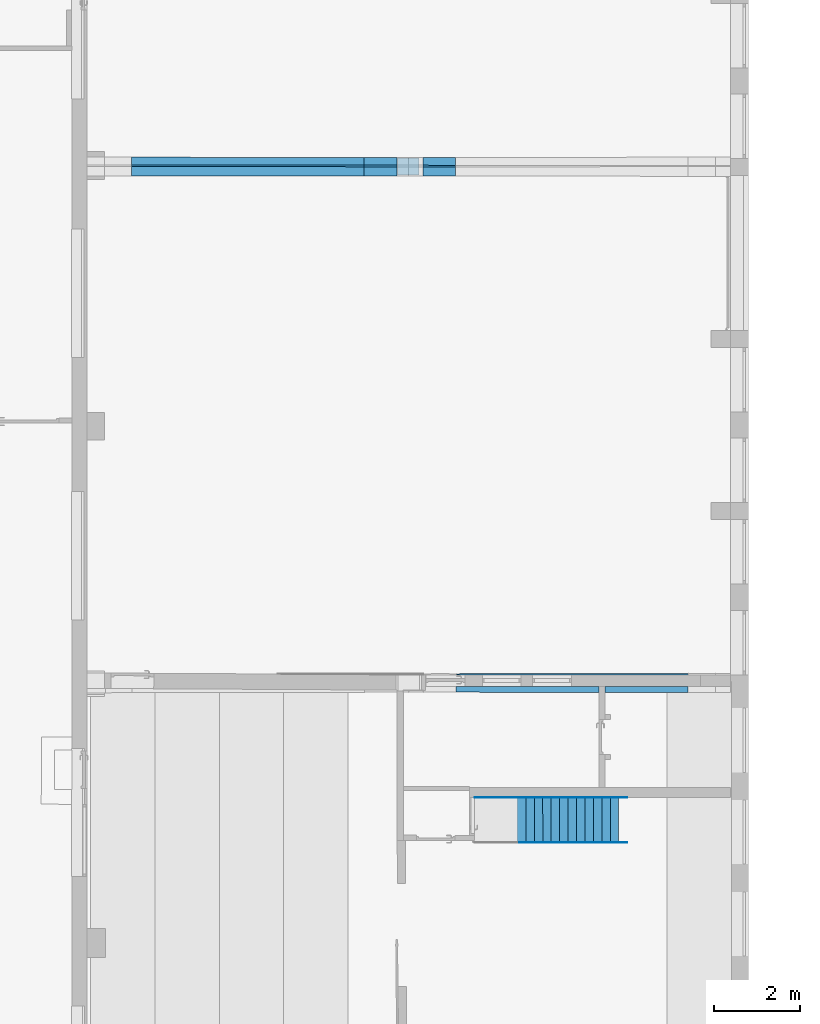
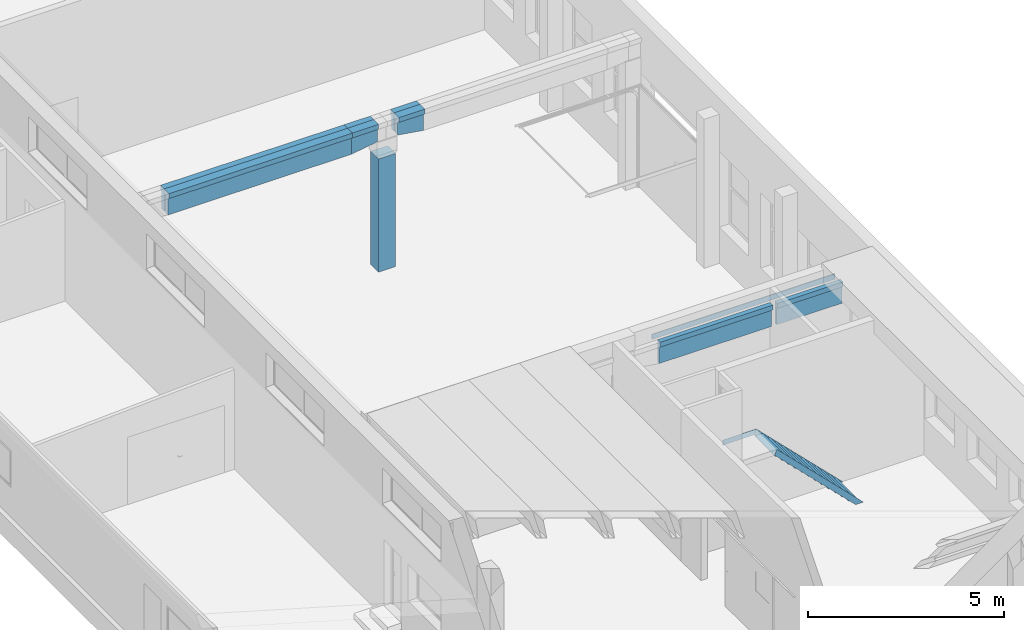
# One storey, part 205 of 301: 13 building element parts, 8 elements without a shape of their own.
"""IFC2X3 building model written with IfcOpenShell, lengths in millimetres."""

from ifc_helpers import new_model, entity, si_unit, converted_unit, derived_unit, money_unit, direction, frame, origin_with_axes, place, context, subcontext, project, spatial, faceted_brep, material, type_object, element, aggregate, save


model = new_model("IFC2X3")

# Units and contexts
model_context = context("Model", 3, precision=0.01, world=origin_with_axes(), true_north=direction((0.0, 1.0)))
body_context = subcontext(model_context, "Body", "Model", "MODEL_VIEW")
ifc_project = project(units=[si_unit("LENGTHUNIT", "METRE", prefix="MILLI"), si_unit("AREAUNIT", "SQUARE_METRE"), si_unit("VOLUMEUNIT", "CUBIC_METRE"), converted_unit("PLANEANGLEUNIT", "DEGREE", entity("IfcPlaneAngleMeasure", 0.0174532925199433), si_unit("PLANEANGLEUNIT", "RADIAN"), dimensions=[0, 0, 0, 0, 0, 0, 0]), money_unit("EUR"), converted_unit("TIMEUNIT", "Year", entity("IfcTimeMeasure", 31557600.0), si_unit("TIMEUNIT", "SECOND"), dimensions=[0, 0, 1, 0, 0, 0, 0]), si_unit("MASSUNIT", "GRAM", prefix="KILO"), si_unit("THERMODYNAMICTEMPERATUREUNIT", "DEGREE_CELSIUS"), si_unit("LUMINOUSINTENSITYUNIT", "LUMEN"), si_unit("ENERGYUNIT", "JOULE", prefix="MEGA"), derived_unit("THERMALCONDUCTANCEUNIT", [(si_unit("POWERUNIT", "WATT"), 1), (si_unit("LENGTHUNIT", "METRE"), -1), (si_unit("THERMODYNAMICTEMPERATUREUNIT", "KELVIN"), -1)]), derived_unit("SPECIFICHEATCAPACITYUNIT", [(si_unit("ENERGYUNIT", "JOULE"), 1), (si_unit("MASSUNIT", "GRAM", prefix="KILO"), -1), (si_unit("THERMODYNAMICTEMPERATUREUNIT", "KELVIN"), -1)]), derived_unit("MASSDENSITYUNIT", [(si_unit("MASSUNIT", "GRAM", prefix="KILO"), 1), (si_unit("VOLUMEUNIT", "CUBIC_METRE"), -1)])], contexts=[model_context])

# Site, building, storey
site_placement = place(None, frame((0.0, 0.0, 8650.0), z_axis=(0.0, 0.0, 1.0), x_axis=(1.0, 0.0, 0.0)))
site = spatial("IfcSite", under=ifc_project, at=site_placement, Name="43301:001:0844", CompositionType="ELEMENT")
building_placement = place(site_placement, origin_with_axes())
building = spatial("IfcBuilding", under=site, at=building_placement, Name="Kuressaare Ametikooli tuulikute mehaanikute õppekorpus", CompositionType="ELEMENT")
storey_placement = place(building_placement, origin_with_axes())
storey = spatial("IfcBuildingStorey", under=building, at=storey_placement, Name="1.korrus", CompositionType="ELEMENT", Elevation=0.0)

# Column, building element part
column_type = type_object("IfcColumnType", Name="Various Structures - 3 Segments - 600 x 400 x 4050 (3533+102+415)", PredefinedType="NOTDEFINED")
column_placement = place(storey_placement, frame((95731.50422307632, 86396.78349422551, -330.0), z_axis=(0.0, 0.0, 1.0), x_axis=(1.0, 0.0, 0.0)))
column = element("IfcColumn", 1, at=column_placement, inside=storey, type_object=column_type)
ifc_material_1 = material(Name="GENEERILINE - KONSTRUKTRIOON")
building_element_part_1_placement = place(column_placement, origin_with_axes())
building_element_part_1 = element("IfcBuildingElementPart", 2, at=building_element_part_1_placement, material=ifc_material_1, Name="GENEERILINE - KONSTRUKTRIOON", context=body_context, shape_type="Brep", body=[
    faceted_brep([(-250.0, -200.0000000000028, 3532.979557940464), (-250.0, -200.0000000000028, 0.0), (250.0, -200.0000000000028, 0.0), (250.0, -200.0000000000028, 3532.979557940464), (-250.0, 200.0000000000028, 3532.979557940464), (-250.0, 200.0000000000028, 0.0), (250.0, 200.0000000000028, 0.0), (250.0, 200.0000000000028, 3532.979557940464)], [[[0, 1, 2, 3]], [[4, 5, 1, 0]], [[2, 1, 5, 6]], [[3, 2, 6, 7]], [[4, 0, 3, 7]], [[7, 6, 5, 4]]]),
])
aggregate(column, [building_element_part_1])

# Beam, building element part
beam_type_1 = type_object("IfcBeamType", Name="Various Structures - 5 Segments - 250 x 700 x 7496 (338+766+5404+640+349)", PredefinedType="NOTDEFINED")
beam_1_placement = place(storey_placement, frame((95731.40168846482, 86476.84788949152, 4300.0), z_axis=(0.0, 0.0, 1.0), x_axis=(0.001815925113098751, -0.9999983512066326, 0.0)))
beam_1 = element("IfcBeam", 3, at=beam_1_placement, inside=storey, type_object=beam_type_1)
ifc_material_2 = material(Name="Raudbetoon")
building_element_part_2_placement = place(beam_1_placement, origin_with_axes())
building_element_part_2 = element("IfcBuildingElementPart", 4, at=building_element_part_2_placement, material=ifc_material_2, Name="Raudbetoon", context=body_context, shape_type="Brep", body=[
    faceted_brep([(-125.0047820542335, 1103.687342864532, 0.0), (54.73938169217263, 1103.687342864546, 0.0), (54.7396536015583, 1103.687342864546, -150.0000000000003), (89.87213282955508, 1103.687342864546, -158.4317561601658), (64.99999999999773, 1103.687342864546, -164.4010680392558), (64.99999999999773, 1103.687342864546, -699.9999999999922), (-64.99999999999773, 1103.687342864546, -699.9999999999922), (-64.99999999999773, 1103.687342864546, -164.4010680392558), (-125.0044501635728, 1103.687342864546, -150.0000000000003), (-125.004616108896, 1103.687342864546, -75.00000000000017), (54.15715483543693, 911.6890417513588, 0.0), (54.73781353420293, 1103.170792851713, 0.0), (-125.0049071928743, 912.2047113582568, 0.0), (-125.00515747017, 529.2394483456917, 0.0), (-125.0052826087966, 337.7568168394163, 0.0), (52.41441914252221, 337.7568168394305, 0.0), (52.99429251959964, 528.7255442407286, 0.0), (54.73808544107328, 1103.170792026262, -150.0000000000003), (54.73794948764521, 1103.170792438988, -75.00000000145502), (88.70993455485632, 337.7568168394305, -158.7108136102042), (54.15747658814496, 911.6890407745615, -150.0000000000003), (52.99459399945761, 528.7255433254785, -150.0000000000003), (52.41471051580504, 337.7568168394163, -150.0000000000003), (64.99999999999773, 337.7568168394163, -164.4011979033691), (64.99999999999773, 337.7568168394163, -579.8231697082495), (-64.99999999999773, 337.7568168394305, -579.8231697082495), (-64.99999999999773, 337.7568168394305, -164.4011979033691), (-125.0045854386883, 912.2047113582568, -150.0000000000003), (-125.004991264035, 337.7568168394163, -150.0000000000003), (-125.0048559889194, 529.2394483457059, -150.0000000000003), (-125.0048765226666, 720.7220798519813, -75.00000000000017), (-125.0051369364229, 337.7568168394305, -75.00000000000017), (52.41456523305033, 337.7568168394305, -75.20094152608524), (52.41456442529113, 337.7568168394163, -74.79905847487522), (53.57587948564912, 720.2072925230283, -75.00000000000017)], [[[0, 1, 2, 3, 4, 5, 6, 7, 8, 9]], [[10, 11, 1, 0, 12, 13, 14, 15, 16]], [[17, 2, 1, 11, 18]], [[19, 3, 2, 17, 20, 21, 22]], [[4, 3, 19, 23]], [[24, 5, 4, 23]], [[24, 25, 6, 5]], [[26, 7, 6, 25]], [[27, 8, 7, 26, 28, 29]], [[27, 9, 8]], [[12, 0, 9]], [[10, 18, 11]], [[13, 12, 30]], [[14, 13, 31]], [[22, 32, 33, 15, 14, 31, 28, 26, 25, 24, 23, 19]], [[15, 33, 16]], [[16, 34, 10]], [[20, 17, 18]], [[20, 34, 21]], [[22, 21, 32]], [[28, 31, 29]], [[29, 30, 27]], [[12, 9, 27, 30]], [[18, 10, 34, 20]], [[13, 30, 29, 31]], [[34, 16, 33, 32, 21]]]),
])
aggregate(beam_1, [building_element_part_2])

# Beam, building element parts
beam_type_2 = type_object("IfcBeamType", Name="Various Structures - 5 Segments - 250 x 700 x 7473 (262+767+5416+621+407)", PredefinedType="NOTDEFINED")
beam_2_placement = place(storey_placement, frame((95731.40168846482, 86476.84788949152, 4300.0), z_axis=(0.0, 0.0, 1.0), x_axis=(0.001819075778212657, 0.9999983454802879, 0.0)))
beam_2 = element("IfcBeam", 5, at=beam_2_placement, inside=storey, type_object=beam_type_2)
building_element_part_3_placement = place(beam_2_placement, origin_with_axes())
building_element_part_3 = element("IfcBuildingElementPart", 6, at=building_element_part_3_placement, material=ifc_material_2, Name="Raudbetoon", context=body_context, shape_type="Brep", body=[
    faceted_brep([(-65.00000000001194, 261.7777961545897, -579.8231697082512), (-65.00000000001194, 262.906567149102, -580.0000000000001), (64.99999999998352, 262.9065671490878, -580.0000000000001), (64.99999999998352, 261.7777961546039, -579.8231697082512), (-64.99999999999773, 299.7797214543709, -585.776451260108), (-64.99999999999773, 299.7797214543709, -580.0000000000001), (-65.00000000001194, 261.7777961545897, -164.4011979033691), (-65.00000000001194, 1028.909484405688, -164.4010680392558), (-65.00000000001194, 1028.909484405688, -699.9999999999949), (64.99999999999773, 300.0162016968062, -580.0000000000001), (64.99999999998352, 300.0162016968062, -585.8134976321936), (64.99999999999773, 1028.909484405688, -699.9999999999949), (64.99999999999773, 1028.909484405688, -164.4010680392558), (64.99999999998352, 261.7777961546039, -164.4011979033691), (125.0051369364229, 261.7777961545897, -75.00000000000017), (125.0052826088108, 261.7777961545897, 0.0), (-51.86425243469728, 261.7777961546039, 0.0), (-51.86452434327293, 261.7777961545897, -150.0000000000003), (-88.43478805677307, 261.7777961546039, -158.7768487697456), (125.004991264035, 261.7777961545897, -150.0000000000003), (-89.13266949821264, 1028.909484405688, -158.6092273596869), (-53.26082943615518, 1028.909484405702, -150.0000000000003), (-53.26066390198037, 1028.909484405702, -75.18593625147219), (-53.26066310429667, 1028.909484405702, -74.81406374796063), (-53.26049757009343, 1028.909484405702, 0.0), (125.0047820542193, 1028.909484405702, 0.0), (125.004616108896, 1028.909484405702, -75.00000000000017), (125.0044501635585, 1028.909484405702, -150.0000000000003), (125.0045854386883, 837.1265623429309, -150.0000000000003), (125.0048559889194, 453.5607182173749, -150.0000000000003), (125.0051574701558, 453.5607182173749, 0.0), (-52.9123699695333, 837.6023380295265, 0.0), (-52.21438435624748, 454.0371289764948, 0.0), (-51.86539154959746, 262.2545244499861, 0.0), (125.0049071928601, 837.1265623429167, 0.0), (-51.86553722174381, 262.2545241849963, -75.00000000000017), (-51.86568289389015, 262.2545239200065, -150.0000000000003), (-52.21468583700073, 454.0371284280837, -150.0000000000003), (-52.91269172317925, 837.6023374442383, -150.0000000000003), (-52.56353297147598, 645.8197332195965, -75.00000000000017), (125.0048765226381, 645.3436402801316, -75.00000000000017)], [[[0, 1, 2, 3]], [[4, 5, 1, 0, 6, 7, 8]], [[5, 9, 2, 1]], [[2, 9, 10, 11, 12, 13, 3]], [[14, 15, 16, 17, 18, 6, 0, 3, 13, 19]], [[4, 10, 9, 5]], [[6, 18, 20, 7]], [[21, 22, 23, 24, 25, 26, 27, 12, 11, 8, 7, 20]], [[11, 10, 4, 8]], [[19, 13, 12, 27, 28, 29]], [[30, 15, 14]], [[25, 24, 31, 32, 33, 16, 15, 30, 34]], [[16, 33, 35, 36, 17]], [[18, 17, 36, 37, 38, 21, 20]], [[14, 19, 29]], [[21, 38, 22]], [[39, 31, 23, 22, 38]], [[24, 23, 31]], [[25, 34, 26]], [[26, 28, 27]], [[40, 29, 28]], [[14, 29, 40, 30]], [[31, 39, 32]], [[33, 32, 35]], [[34, 30, 40]], [[35, 37, 36]], [[39, 38, 37]], [[40, 28, 26, 34]], [[39, 37, 35, 32]]]),
])
building_element_part_4_placement = place(beam_2_placement, origin_with_axes())
building_element_part_4 = element("IfcBuildingElementPart", 7, at=building_element_part_4_placement, material=ifc_material_2, Name="Raudbetoon", context=body_context, shape_type="Brep", body=[
    faceted_brep([(-63.11170246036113, 6444.825006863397, 0.0), (-53.26136277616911, 1029.38494255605, 0.0), (-53.26049757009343, 1028.909484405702, 0.0), (125.0055545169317, 1028.909484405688, 0.0), (125.0055545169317, 6444.825006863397, 0.0), (-53.26169466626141, 1029.384941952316, -150.0000000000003), (-53.26152872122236, 1029.384942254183, -75.00000000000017), (-63.111974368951, 6444.825006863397, -150.0000000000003), (-53.26066310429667, 1028.909484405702, -74.81406374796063), (-53.26066390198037, 1028.909484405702, -75.18593625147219), (-53.26082943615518, 1028.909484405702, -150.0000000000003), (-89.13308572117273, 1028.909484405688, -158.609327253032), (-64.99999999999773, 1028.909484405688, -164.4012678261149), (-64.99999999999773, 1028.909484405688, -700.0000000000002), (64.99999999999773, 1028.909484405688, -700.0000000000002), (64.99999999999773, 1028.909484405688, -164.4012678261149), (125.0052826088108, 1028.909484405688, -150.0000000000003), (125.0052826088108, 6444.825006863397, -150.0000000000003), (-65.00000000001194, 6444.825006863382, -164.4012678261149), (-94.05865408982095, 6444.825006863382, -157.4271908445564), (65.00000000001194, 6444.825006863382, -164.4012678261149), (65.00000000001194, 6444.825006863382, -700.0000000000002), (-65.00000000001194, 6444.825006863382, -700.0000000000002)], [[[0, 1, 2, 3, 4]], [[5, 6, 1, 0, 7]], [[6, 8, 2, 1]], [[9, 10, 11, 12, 13, 14, 15, 16, 3, 2, 8]], [[4, 3, 16, 17]], [[18, 19, 7, 0, 4, 17, 20, 21, 22]], [[5, 10, 9, 6]], [[19, 11, 10, 5, 7]], [[6, 9, 8]], [[12, 11, 19, 18]], [[22, 13, 12, 18]], [[21, 14, 13, 22]], [[20, 15, 14, 21]], [[17, 16, 15, 20]]]),
])
aggregate(beam_2, [building_element_part_3, building_element_part_4])

# Beam, building element part
beam_type_3 = type_object("IfcBeamType", Name="Various Structures - 5 Segments - 250 x 700 x 7497 (338+766+5404+640+350)", PredefinedType="NOTDEFINED")
beam_3_placement = place(storey_placement, frame((95730.8310469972, 86300.45436199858, 4300.0), z_axis=(0.0, 0.0, 1.0), x_axis=(-0.001219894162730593, -0.9999992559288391, 0.0)))
beam_3 = element("IfcBeam", 8, at=beam_3_placement, inside=storey, type_object=beam_type_3)
building_element_part_5_placement = place(beam_3_placement, origin_with_axes())
building_element_part_5 = element("IfcBuildingElementPart", 9, at=building_element_part_5_placement, material=ifc_material_2, Name="Raudbetoon", context=body_context, shape_type="Brep", body=[
    faceted_brep([(65.00000000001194, 1103.687342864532, -164.4010680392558), (64.99999999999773, 337.7568168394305, -164.4011979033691), (64.99999999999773, 337.7568168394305, -579.8231697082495), (65.00000000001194, 1103.687342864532, -699.99999999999), (125.0044501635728, 1103.687342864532, -150.0000000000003), (125.0045854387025, 912.2047113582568, -150.0000000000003), (125.0048559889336, 529.2394483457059, -150.0000000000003), (125.0049912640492, 337.7568168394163, -150.0000000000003), (-64.99999999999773, 337.7568168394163, -579.8231697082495), (125.0051369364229, 337.7568168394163, -75.00000000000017), (125.0052826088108, 337.7568168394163, 0.0), (-125.0052826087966, 337.7568168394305, 0.0), (-125.0051369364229, 337.7568168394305, -75.00000000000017), (-125.004991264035, 337.7568168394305, -150.0000000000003), (-64.99999999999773, 337.7568168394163, -164.4011979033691), (-64.99999999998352, 1103.687342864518, -699.99999999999), (-64.99999999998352, 1103.687342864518, -164.4010680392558), (-125.0044501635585, 1103.687342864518, -150.0000000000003), (-125.004616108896, 1103.687342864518, -75.00000000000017), (-125.0047820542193, 1103.687342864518, 0.0), (125.0047820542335, 1103.687342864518, 0.0), (125.0046161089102, 1103.687342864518, -75.00000000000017), (125.0048765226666, 720.7220798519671, -75.00000000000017), (125.00515747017, 529.2394483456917, 0.0), (-125.0049071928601, 912.2047113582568, 0.0), (-125.00515747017, 529.2394483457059, 0.0), (125.0049071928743, 912.2047113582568, 0.0), (-125.0048559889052, 529.2394483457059, -150.0000000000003), (-125.0045854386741, 912.2047113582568, -150.0000000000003), (-125.0048765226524, 720.7220798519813, -75.00000000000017)], [[[0, 1, 2, 3]], [[4, 5, 6, 7, 1, 0]], [[8, 2, 1, 7, 9, 10, 11, 12, 13, 14]], [[15, 3, 2, 8]], [[0, 3, 15, 16, 17, 18, 19, 20, 21, 4]], [[21, 5, 4]], [[22, 6, 5]], [[9, 7, 6]], [[23, 10, 9]], [[19, 24, 25, 11, 10, 23, 26, 20]], [[12, 11, 25]], [[27, 13, 12]], [[16, 14, 13, 27, 28, 17]], [[15, 8, 14, 16]], [[17, 28, 18]], [[18, 24, 19]], [[20, 26, 21]], [[26, 22, 5, 21]], [[23, 9, 6, 22]], [[29, 25, 24]], [[26, 23, 22]], [[27, 12, 25, 29]], [[28, 27, 29]], [[28, 29, 24, 18]]]),
])
aggregate(beam_3, [building_element_part_5])

# Beam, building element parts
beam_type_4 = type_object("IfcBeamType", Name="Various Structures - 5 Segments - 250 x 700 x 7472 (262+767+5416+621+406)", PredefinedType="NOTDEFINED")
beam_4_placement = place(storey_placement, frame((95730.8310469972, 86300.45436199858, 4300.0), z_axis=(0.0, 0.0, 1.0), x_axis=(0.0, 1.0, 0.0)))
beam_4 = element("IfcBeam", 10, at=beam_4_placement, inside=storey, type_object=beam_type_4)
building_element_part_6_placement = place(beam_4_placement, origin_with_axes())
building_element_part_6 = element("IfcBuildingElementPart", 11, at=building_element_part_6_placement, material=ifc_material_2, Name="Raudbetoon", context=body_context, shape_type="Brep", body=[
    faceted_brep([(-64.99999999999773, 261.7777961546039, -579.8231697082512), (-64.99999999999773, 262.906567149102, -580.0000000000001), (64.99999999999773, 262.906567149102, -580.0000000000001), (64.99999999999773, 261.7777961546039, -579.8231697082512), (-64.99999999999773, 299.326823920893, -585.7055015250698), (-64.99999999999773, 299.326823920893, -580.0000000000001), (-64.99999999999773, 261.7777961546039, -164.4011979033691), (-64.99999999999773, 1028.909484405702, -164.4010680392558), (-64.99999999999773, 1028.909484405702, -699.9999999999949), (64.99999999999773, 299.326823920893, -580.0000000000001), (64.99999999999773, 299.326823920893, -585.7055015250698), (64.99999999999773, 1028.909484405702, -699.9999999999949), (64.99999999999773, 1028.909484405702, -164.4010680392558), (64.99999999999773, 261.7777961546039, -164.4011979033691), (125.004991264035, 261.7777961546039, -150.0000000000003), (125.0051369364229, 261.7777961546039, -75.00000000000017), (125.0052826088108, 261.7777961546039, 0.0), (-125.0052826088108, 261.7777961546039, 0.0), (-125.0051369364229, 261.7777961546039, -75.00000000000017), (-125.004991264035, 261.7777961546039, -150.0000000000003), (-125.0044501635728, 1028.909484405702, -150.0000000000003), (-125.0048559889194, 453.5607182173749, -150.0000000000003), (-125.0045854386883, 837.1265623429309, -150.0000000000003), (125.0044501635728, 1028.909484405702, -150.0000000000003), (-125.004616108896, 1028.909484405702, -75.00000000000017), (-125.0047820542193, 1028.909484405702, 0.0), (125.0047820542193, 1028.909484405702, 0.0), (125.004616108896, 1028.909484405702, -75.00000000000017), (125.0045854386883, 837.1265623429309, -150.0000000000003), (125.0048559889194, 453.5607182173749, -150.0000000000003), (125.00515747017, 453.5607182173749, 0.0), (-125.0049071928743, 837.1265623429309, 0.0), (-125.00515747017, 453.5607182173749, 0.0), (125.0049071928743, 837.1265623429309, 0.0), (-125.0048765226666, 645.34364028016, -75.00000000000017), (125.0048765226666, 645.34364028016, -75.00000000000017)], [[[0, 1, 2, 3]], [[4, 5, 1, 0, 6, 7, 8]], [[5, 9, 2, 1]], [[2, 9, 10, 11, 12, 13, 3]], [[6, 0, 3, 13, 14, 15, 16, 17, 18, 19]], [[4, 10, 9, 5]], [[20, 7, 6, 19, 21, 22]], [[23, 12, 11, 8, 7, 20, 24, 25, 26, 27]], [[11, 10, 4, 8]], [[12, 23, 28, 29, 14, 13]], [[29, 15, 14]], [[15, 30, 16]], [[26, 25, 31, 32, 17, 16, 30, 33]], [[32, 18, 17]], [[18, 21, 19]], [[34, 22, 21]], [[24, 20, 22]], [[25, 24, 31]], [[27, 26, 33]], [[23, 27, 28]], [[28, 35, 29]], [[35, 30, 15, 29]], [[31, 34, 32]], [[35, 33, 30]], [[34, 21, 18, 32]], [[24, 22, 34, 31]], [[27, 33, 35, 28]]]),
])
building_element_part_7_placement = place(beam_4_placement, origin_with_axes())
building_element_part_7 = element("IfcBuildingElementPart", 12, at=building_element_part_7_placement, material=ifc_material_2, Name="Raudbetoon", context=body_context, shape_type="Brep", body=[
    faceted_brep([(64.99999999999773, 1028.909484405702, -700.0000000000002), (64.99999999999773, 6444.812621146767, -700.0000000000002), (64.99999999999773, 6444.812621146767, -164.4012678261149), (64.99999999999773, 1028.909484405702, -164.4012678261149), (-64.99999999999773, 1028.909484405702, -700.0000000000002), (-64.99999999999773, 6444.812621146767, -700.0000000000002), (-64.99999999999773, 6444.812621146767, -164.4012678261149), (-125.0052826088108, 6444.812621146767, -150.0000000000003), (-125.0055545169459, 6444.812621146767, 0.0), (125.0055545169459, 6444.812621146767, 0.0), (125.0052826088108, 6444.812621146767, -150.0000000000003), (125.0052826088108, 1028.909484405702, -150.0000000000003), (125.0055545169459, 1028.909484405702, 0.0), (-125.0055545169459, 1028.909484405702, 0.0), (-125.0052826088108, 1028.909484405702, -150.0000000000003), (-64.99999999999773, 1028.909484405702, -164.4012678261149)], [[[0, 1, 2, 3]], [[4, 5, 1, 0]], [[2, 1, 5, 6, 7, 8, 9, 10]], [[3, 2, 10, 11]], [[4, 0, 3, 11, 12, 13, 14, 15]], [[15, 6, 5, 4]], [[14, 7, 6, 15]], [[13, 8, 7, 14]], [[12, 9, 8, 13]], [[11, 10, 9, 12]]]),
])
aggregate(beam_4, [building_element_part_6, building_element_part_7])

# Beam, building element part
beam_type_5 = type_object("IfcBeamType", Name="Various Structures - 5 Segments - 250 x 700 x 7488 (338+766+5404+640+341)", PredefinedType="NOTDEFINED")
beam_5_placement = place(storey_placement, frame((95739.59932354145, 74462.89050016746, 4300.0), z_axis=(0.0, 0.0, 1.0), x_axis=(0.001815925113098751, -0.9999983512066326, 0.0)))
beam_5 = element("IfcBeam", 13, at=beam_5_placement, inside=storey, type_object=beam_type_5)
building_element_part_8_placement = place(beam_5_placement, origin_with_axes())
building_element_part_8 = element("IfcBuildingElementPart", 14, at=building_element_part_8_placement, material=ifc_material_2, Name="Raudbetoon", context=body_context, shape_type="Brep", body=[
    faceted_brep([(-125.0055545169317, 1103.687342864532, 0.0), (-100.2980713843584, 1103.687342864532, 0.0), (-90.48497048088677, 6507.591200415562, 0.0), (-125.0055545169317, 6507.591200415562, 0.0), (-125.0052826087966, 1103.687342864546, -150.0000000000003), (-100.2980713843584, 1103.687342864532, -155.9297306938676), (-90.48497048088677, 6507.591200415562, -158.2848749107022), (-125.0052826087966, 6507.591200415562, -150.0000000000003)], [[[0, 1, 2, 3]], [[4, 5, 1, 0]], [[5, 6, 2, 1]], [[3, 2, 6, 7]], [[3, 7, 4, 0]], [[7, 6, 5, 4]]]),
])
aggregate(beam_5, [building_element_part_8])

beam_type_6 = type_object("IfcBeamType", Name="Various Structures - 5 Segments - 250 x 700 x 7349 (338+766+5264+640+341)", PredefinedType="NOTDEFINED")
beam_6_placement = place(storey_placement, frame((95739.02868207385, 74286.49697267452, 4300.0), z_axis=(0.0, 0.0, 1.0), x_axis=(-0.001219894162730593, -0.9999992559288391, 0.0)))
beam_6 = element("IfcBeam", 15, at=beam_6_placement, inside=storey, type_object=beam_type_6)
building_element_part_9_placement = place(beam_6_placement, origin_with_axes())
building_element_part_9 = element("IfcBuildingElementPart", 16, at=building_element_part_9_placement, material=ifc_material_2, Name="Raudbetoon", context=body_context, shape_type="Brep", body=[
    faceted_brep([(64.99999999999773, 4432.738260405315, -700.0000000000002), (-14.10301137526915, 4432.641763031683, -700.0000000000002), (-14.10301137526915, 4432.641763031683, 0.0), (125.0055545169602, 4432.81146088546, 0.0), (125.0052826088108, 4432.811460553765, -150.0000000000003), (64.99999999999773, 4432.738260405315, -164.4012678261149), (64.99999999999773, 1103.687342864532, -700.0000000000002), (-10.04203628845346, 1103.687342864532, -700.0000000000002), (-10.04203628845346, 1103.687342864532, 0.0), (125.0055545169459, 1103.687342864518, 0.0), (125.0052826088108, 1103.687342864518, -150.0000000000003), (64.99999999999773, 1103.687342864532, -164.4012678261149)], [[[0, 1, 2, 3, 4, 5]], [[6, 7, 1, 0]], [[7, 8, 2, 1]], [[3, 2, 8, 9]], [[10, 4, 3, 9]], [[11, 5, 4, 10]], [[6, 0, 5, 11]], [[9, 8, 7, 6, 11, 10]]]),
    faceted_brep([(64.99999999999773, 6507.542656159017, -700.0000000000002), (-16.63417274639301, 6507.542656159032, -700.0000000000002), (-16.63417274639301, 6507.542656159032, 0.0), (125.0055545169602, 6507.542656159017, 0.0), (125.005282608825, 6507.542656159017, -150.0000000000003), (64.99999999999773, 6507.542656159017, -164.4012678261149), (65.00000000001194, 4572.738364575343, -700.0000000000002), (-14.27379655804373, 4572.641658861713, -700.0000000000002), (-14.27379655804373, 4572.641658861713, 0.0), (125.0055545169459, 4572.811565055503, 0.0), (125.005282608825, 4572.811564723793, -150.0000000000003), (65.00000000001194, 4572.738364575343, -164.4012678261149)], [[[0, 1, 2, 3, 4, 5]], [[6, 7, 1, 0]], [[7, 8, 2, 1]], [[3, 2, 8, 9]], [[3, 9, 10, 4]], [[4, 10, 11, 5]], [[5, 11, 6, 0]], [[9, 8, 7, 6, 11, 10]]]),
])
aggregate(beam_6, [building_element_part_9])

# Stair, building element parts
stair_placement = place(storey_placement, frame((101247.1208628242, 71704.28857160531, 44.94862960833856), z_axis=(0.0, 0.0, 1.0), x_axis=(0.0, -1.0, 0.0)))
stair = element("IfcStair", 17, at=stair_placement, inside=storey, ShapeType="NOTDEFINED")
building_element_part_10_placement = place(stair_placement, origin_with_axes())
building_element_part_10 = element("IfcBuildingElementPart", 18, at=building_element_part_10_placement, material=ifc_material_1, Name="GENEERILINE - KONSTRUKTRIOON", context=body_context, shape_type="Brep", body=[
    faceted_brep([(1050.042088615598, -3042.37708893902, 2380.000000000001), (1040.042088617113, -3042.377262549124, 2380.000000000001), (1040.000527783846, -648.4595035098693, 0.0), (1050.000527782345, -648.459329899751, 0.0), (1040.040942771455, -2976.376173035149, 2540.0), (1050.04094276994, -2976.375999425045, 2540.0), (1039.996587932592, -421.5227663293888, 0.0), (1049.996587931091, -421.5225927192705, 0.0)], [[[0, 1, 2, 3]], [[4, 1, 0, 5]], [[1, 4, 6, 2]], [[7, 3, 2, 6]], [[5, 0, 3, 7]], [[4, 5, 7, 6]]]),
])
building_element_part_11_placement = place(stair_placement, origin_with_axes())
building_element_part_11 = element("IfcBuildingElementPart", 19, at=building_element_part_11_placement, material=ifc_material_1, Name="GENEERILINE - KONSTRUKTRIOON", context=body_context, shape_type="Brep", body=[
    faceted_brep([(0.04208877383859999, -3042.395318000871, 2380.0), (-9.957911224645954, -3042.395491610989, 2380.0), (-9.999472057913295, -648.4777325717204, 0.0), (0.0005279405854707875, -648.4775589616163, 0.0), (-9.959057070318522, -2976.394402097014, 2540.0), (0.04094292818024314, -2976.394228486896, 2540.0), (-10.00341190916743, -421.5409953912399, 0.0), (-0.003411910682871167, -421.5408217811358, 0.0)], [[[0, 1, 2, 3]], [[4, 1, 0, 5]], [[1, 4, 6, 2]], [[7, 3, 2, 6]], [[5, 0, 3, 7]], [[4, 5, 7, 6]]]),
])
building_element_part_12_placement = place(stair_placement, origin_with_axes())
building_element_part_12 = element("IfcBuildingElementPart", 20, at=building_element_part_12_placement, material=ifc_material_1, Name="GENEERILINE - KONSTRUKTRIOON", context=body_context, shape_type="Brep", body=[
    faceted_brep([(-9.959057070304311, -2976.394402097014, 2540.0), (-9.957911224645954, -3042.395491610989, 2380.0), (-9.95596668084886, -3154.401858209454, 2380.0), (-9.95596668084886, -3154.401858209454, 2540.0), (0.04208877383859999, -3042.395318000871, 2380.0), (0.04094292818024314, -2976.39422848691, 2540.0), (0.04403321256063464, -3154.395632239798, 2380.0), (1.043483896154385, -3968.390993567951, 2380.0), (-8.956508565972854, -3968.403271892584, 2380.0), (-8.956508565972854, -3968.403271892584, 2540.0), (1.043483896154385, -3968.390993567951, 2540.0), (0.04403321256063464, -3154.395632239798, 2540.0)], [[[0, 1, 2, 3]], [[4, 1, 0, 5]], [[1, 4, 6, 7, 8, 2]], [[2, 8, 9, 3]], [[5, 0, 3, 9, 10, 11]], [[4, 5, 11, 6]], [[11, 10, 7, 6]], [[8, 7, 10, 9]]]),
])
building_element_part_13_placement = place(stair_placement, origin_with_axes())
building_element_part_13 = element("IfcBuildingElementPart", 21, at=building_element_part_13_placement, material=ifc_material_1, Name="GENEERILINE - KONSTRUKTRIOON", context=body_context, shape_type="Brep", body=[
    faceted_brep([(1039.999999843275, -618.0499514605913, 180.3846153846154), (0.0, -618.0680069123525, 180.3846153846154), (0.0, -618.0680069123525, 195.3846153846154), (1039.999999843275, -618.0499514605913, 195.3846153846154), (1040.004192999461, -859.5771365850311, 180.3846153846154), (0.004193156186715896, -859.5951920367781, 180.3846153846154), (0.004193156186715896, -859.5951920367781, 195.3846153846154), (1040.004192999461, -859.5771365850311, 195.3846153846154)], [[[0, 1, 2, 3]], [[0, 4, 5, 1]], [[1, 5, 6, 2]], [[3, 2, 6, 7]], [[4, 0, 3, 7]], [[5, 4, 7, 6]]]),
    faceted_brep([(1040.003411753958, -814.577136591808, 375.7692307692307), (0.003411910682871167, -814.595192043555, 375.7692307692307), (0.003411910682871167, -814.595192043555, 390.7692307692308), (1040.003411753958, -814.577136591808, 390.7692307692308), (1040.007604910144, -1056.104321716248, 375.7692307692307), (0.007605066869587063, -1056.122377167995, 375.7692307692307), (0.007605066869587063, -1056.122377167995, 390.7692307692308), (1040.007604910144, -1056.104321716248, 390.7692307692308)], [[[0, 1, 2, 3]], [[0, 4, 5, 1]], [[1, 5, 6, 2]], [[3, 2, 6, 7]], [[4, 0, 3, 7]], [[5, 4, 7, 6]]]),
    faceted_brep([(1040.00682366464, -1011.104321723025, 571.1538461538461), (0.006823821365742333, -1011.122377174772, 571.1538461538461), (0.006823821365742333, -1011.122377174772, 586.1538461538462), (1040.00682366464, -1011.104321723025, 586.1538461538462), (1040.011016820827, -1252.63150684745, 571.1538461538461), (0.01101697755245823, -1252.649562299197, 571.1538461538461), (0.01101697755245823, -1252.649562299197, 586.1538461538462), (1040.011016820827, -1252.63150684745, 586.1538461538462)], [[[0, 1, 2, 3]], [[0, 4, 5, 1]], [[1, 5, 6, 2]], [[3, 2, 6, 7]], [[4, 0, 3, 7]], [[5, 4, 7, 6]]]),
    faceted_brep([(1040.010235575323, -1207.631506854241, 766.5384615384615), (0.0102357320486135, -1207.649562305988, 766.5384615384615), (0.0102357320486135, -1207.649562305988, 781.5384615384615), (1040.010235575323, -1207.631506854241, 781.5384615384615), (1040.01442873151, -1449.158691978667, 766.5384615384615), (0.0144288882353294, -1449.176747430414, 766.5384615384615), (0.0144288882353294, -1449.176747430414, 781.5384615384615), (1040.01442873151, -1449.158691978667, 781.5384615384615)], [[[0, 1, 2, 3]], [[0, 4, 5, 1]], [[1, 5, 6, 2]], [[3, 2, 6, 7]], [[4, 0, 3, 7]], [[5, 4, 7, 6]]]),
    faceted_brep([(1040.013647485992, -1404.158691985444, 961.9230769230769), (0.01364764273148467, -1404.176747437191, 961.9230769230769), (0.01364764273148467, -1404.176747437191, 976.923076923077), (1040.013647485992, -1404.158691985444, 976.923076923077), (1040.017840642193, -1645.685877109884, 961.9230769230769), (0.01784079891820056, -1645.703932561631, 961.9230769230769), (0.01784079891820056, -1645.703932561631, 976.923076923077), (1040.017840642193, -1645.685877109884, 976.923076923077)], [[[0, 1, 2, 3]], [[0, 4, 5, 1]], [[1, 5, 6, 2]], [[3, 2, 6, 7]], [[4, 0, 3, 7]], [[5, 4, 7, 6]]]),
    faceted_brep([(1040.017059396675, -1600.685877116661, 1157.307692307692), (0.01705955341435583, -1600.703932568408, 1157.307692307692), (0.01705955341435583, -1600.703932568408, 1172.307692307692), (1040.017059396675, -1600.685877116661, 1172.307692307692), (1040.021252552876, -1842.2130622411, 1157.307692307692), (0.02125270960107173, -1842.231117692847, 1157.307692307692), (0.02125270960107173, -1842.231117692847, 1172.307692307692), (1040.021252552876, -1842.2130622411, 1172.307692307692)], [[[0, 1, 2, 3]], [[0, 4, 5, 1]], [[1, 5, 6, 2]], [[3, 2, 6, 7]], [[4, 0, 3, 7]], [[5, 4, 7, 6]]]),
    faceted_brep([(1040.020471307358, -1797.213062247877, 1352.692307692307), (0.020471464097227, -1797.231117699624, 1352.692307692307), (0.020471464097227, -1797.231117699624, 1367.692307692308), (1040.020471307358, -1797.213062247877, 1367.692307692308), (1040.024664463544, -2038.740247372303, 1352.692307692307), (0.0246646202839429, -2038.75830282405, 1352.692307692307), (0.0246646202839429, -2038.75830282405, 1367.692307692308), (1040.024664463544, -2038.740247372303, 1367.692307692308)], [[[0, 1, 2, 3]], [[0, 4, 5, 1]], [[1, 5, 6, 2]], [[3, 2, 6, 7]], [[4, 0, 3, 7]], [[5, 4, 7, 6]]]),
    faceted_brep([(1040.023883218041, -1993.740247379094, 1548.076923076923), (0.02388337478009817, -1993.758302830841, 1548.076923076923), (0.02388337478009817, -1993.758302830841, 1563.076923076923), (1040.023883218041, -1993.740247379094, 1563.076923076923), (1040.028076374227, -2235.26743250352, 1548.076923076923), (0.02807653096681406, -2235.285487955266, 1548.076923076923), (0.02807653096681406, -2235.285487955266, 1563.076923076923), (1040.028076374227, -2235.26743250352, 1563.076923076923)], [[[0, 1, 2, 3]], [[0, 4, 5, 1]], [[1, 5, 6, 2]], [[3, 2, 6, 7]], [[4, 0, 3, 7]], [[5, 4, 7, 6]]]),
    faceted_brep([(1040.027295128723, -2190.267432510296, 1743.461538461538), (0.02729528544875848, -2190.285487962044, 1743.461538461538), (0.02729528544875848, -2190.285487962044, 1758.461538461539), (1040.027295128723, -2190.267432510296, 1758.461538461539), (1040.03148828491, -2431.794617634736, 1743.461538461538), (0.03148844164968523, -2431.812673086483, 1743.461538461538), (0.03148844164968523, -2431.812673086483, 1758.461538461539), (1040.03148828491, -2431.794617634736, 1758.461538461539)], [[[0, 1, 2, 3]], [[0, 4, 5, 1]], [[1, 5, 6, 2]], [[3, 2, 6, 7]], [[4, 0, 3, 7]], [[5, 4, 7, 6]]]),
    faceted_brep([(1040.030707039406, -2386.794617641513, 1938.846153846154), (0.03070719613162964, -2386.81267309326, 1938.846153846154), (0.03070719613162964, -2386.81267309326, 1953.846153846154), (1040.030707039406, -2386.794617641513, 1953.846153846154), (1040.034900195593, -2628.321802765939, 1938.846153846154), (0.03490035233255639, -2628.339858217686, 1938.846153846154), (0.03490035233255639, -2628.339858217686, 1953.846153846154), (1040.034900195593, -2628.321802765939, 1953.846153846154)], [[[0, 1, 2, 3]], [[0, 4, 5, 1]], [[1, 5, 6, 2]], [[3, 2, 6, 7]], [[4, 0, 3, 7]], [[5, 4, 7, 6]]]),
    faceted_brep([(1040.034118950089, -2583.32180277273, 2134.230769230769), (0.03411910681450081, -2583.339858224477, 2134.230769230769), (0.03411910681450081, -2583.339858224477, 2149.230769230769), (1040.034118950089, -2583.32180277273, 2149.230769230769), (1040.038312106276, -2824.848987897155, 2134.230769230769), (0.03831226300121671, -2824.867043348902, 2134.230769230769), (0.03831226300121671, -2824.867043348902, 2149.230769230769), (1040.038312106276, -2824.848987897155, 2149.230769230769)], [[[0, 1, 2, 3]], [[0, 4, 5, 1]], [[1, 5, 6, 2]], [[3, 2, 6, 7]], [[4, 0, 3, 7]], [[5, 4, 7, 6]]]),
    faceted_brep([(1040.037530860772, -2779.848987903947, 2329.615384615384), (0.03753101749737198, -2779.867043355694, 2329.615384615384), (0.03753101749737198, -2779.867043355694, 2344.615384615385), (1040.037530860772, -2779.848987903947, 2344.615384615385), (1040.040942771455, -2976.376173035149, 2329.615384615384), (1040.041724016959, -3021.376173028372, 2329.615384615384), (0.04172417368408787, -3021.394228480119, 2329.615384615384), (0.04094292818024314, -2976.394228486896, 2329.615384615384), (0.04094292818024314, -2976.394228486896, 2344.615384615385), (0.04172417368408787, -3021.394228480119, 2344.615384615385), (1040.041724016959, -3021.376173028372, 2344.615384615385), (1040.040942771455, -2976.376173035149, 2344.615384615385)], [[[0, 1, 2, 3]], [[0, 4, 5, 6, 7, 1]], [[1, 7, 8, 2]], [[3, 2, 8, 9, 10, 11]], [[4, 0, 3, 11]], [[5, 4, 11, 10]], [[6, 5, 10, 9]], [[7, 6, 9, 8]]]),
])
aggregate(stair, [building_element_part_10, building_element_part_11, building_element_part_12, building_element_part_13])

save(model, "model.ifc")
